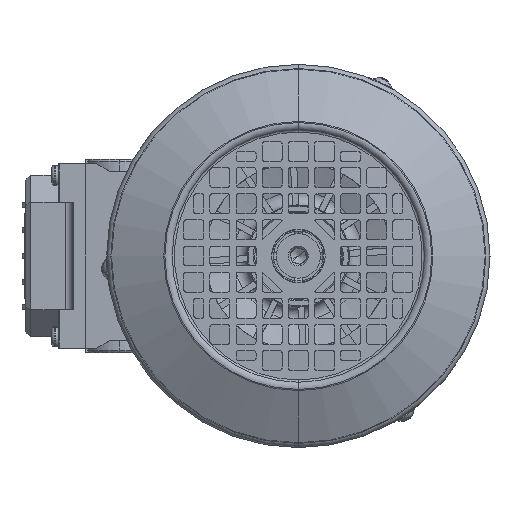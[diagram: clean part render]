
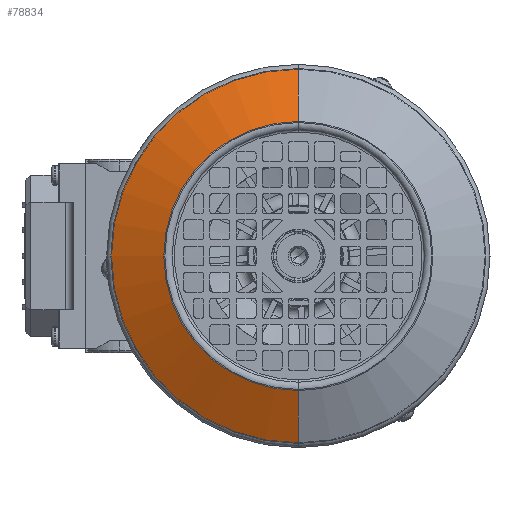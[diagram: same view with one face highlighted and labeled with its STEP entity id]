
A CAD part, left-side view. The second image highlights one B-rep face of the part: STEP entity #78834.
In plain terms, the highlighted conical face has half-angle 64 degrees and reference radius 75.315 mm.
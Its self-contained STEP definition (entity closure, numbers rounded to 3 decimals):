
#1124 = EDGE_CURVE ( 'NONE', #42123, #18378, #64721, .T. ) ;
#2572 = EDGE_CURVE ( 'NONE', #57374, #69480, #6826, .T. ) ;
#6826 = LINE ( 'NONE', #17794, #23543 ) ;
#7767 = DIRECTION ( 'NONE',  ( 0., 1., 0. ) ) ;
#8049 = DIRECTION ( 'NONE',  ( -0.899, 0.438, 0. ) ) ;
#9223 = EDGE_LOOP ( 'NONE', ( #47504, #57045, #59058, #66948 ) ) ;
#9347 = CARTESIAN_POINT ( 'NONE',  ( 54.045, 0.253, 0. ) ) ;
#12422 = CARTESIAN_POINT ( 'NONE',  ( 0., 10.627, 0. ) ) ;
#16920 = CONICAL_SURFACE ( 'NONE', #37364, 75.315, 1.117 ) ;
#17303 = CARTESIAN_POINT ( 'NONE',  ( 75.315, 10.627, 0. ) ) ;
#17770 = CIRCLE ( 'NONE', #20928, 54.045 ) ;
#17794 = CARTESIAN_POINT ( 'NONE',  ( 75.315, 10.627, 0. ) ) ;
#18378 = VERTEX_POINT ( 'NONE', #87820 ) ;
#19144 = FACE_OUTER_BOUND ( 'NONE', #9223, .T. ) ;
#19564 = DIRECTION ( 'NONE',  ( -1., 0., 0. ) ) ;
#20928 = AXIS2_PLACEMENT_3D ( 'NONE', #69819, #27480, #76931 ) ;
#22060 = CARTESIAN_POINT ( 'NONE',  ( 0., 10.627, 0. ) ) ;
#23543 = VECTOR ( 'NONE', #24948, 1000. ) ;
#24948 = DIRECTION ( 'NONE',  ( 0.899, 0.438, 0. ) ) ;
#27480 = DIRECTION ( 'NONE',  ( 0., 1., 0. ) ) ;
#37364 = AXIS2_PLACEMENT_3D ( 'NONE', #22060, #7767, #85801 ) ;
#42123 = VERTEX_POINT ( 'NONE', #51358 ) ;
#44077 = EDGE_CURVE ( 'NONE', #69480, #18378, #45046, .T. ) ;
#45046 = CIRCLE ( 'NONE', #49317, 75.315 ) ;
#47504 = ORIENTED_EDGE ( 'NONE', *, *, #2572, .F. ) ;
#49317 = AXIS2_PLACEMENT_3D ( 'NONE', #12422, #61965, #19564 ) ;
#50453 = CARTESIAN_POINT ( 'NONE',  ( -75.315, 10.627, 0. ) ) ;
#51358 = CARTESIAN_POINT ( 'NONE',  ( -54.045, 0.253, 0. ) ) ;
#57045 = ORIENTED_EDGE ( 'NONE', *, *, #71969, .T. ) ;
#57374 = VERTEX_POINT ( 'NONE', #9347 ) ;
#59058 = ORIENTED_EDGE ( 'NONE', *, *, #1124, .T. ) ;
#61965 = DIRECTION ( 'NONE',  ( 0., 1., 0. ) ) ;
#62477 = VECTOR ( 'NONE', #8049, 1000. ) ;
#64721 = LINE ( 'NONE', #50453, #62477 ) ;
#66948 = ORIENTED_EDGE ( 'NONE', *, *, #44077, .F. ) ;
#69480 = VERTEX_POINT ( 'NONE', #17303 ) ;
#69819 = CARTESIAN_POINT ( 'NONE',  ( 0., 0.253, 0. ) ) ;
#71969 = EDGE_CURVE ( 'NONE', #57374, #42123, #17770, .T. ) ;
#76931 = DIRECTION ( 'NONE',  ( -1., 0., 0. ) ) ;
#78834 = ADVANCED_FACE ( 'NONE', ( #19144 ), #16920, .T. ) ;
#85801 = DIRECTION ( 'NONE',  ( -1., 0., 0. ) ) ;
#87820 = CARTESIAN_POINT ( 'NONE',  ( -75.315, 10.627, 0. ) ) ;
